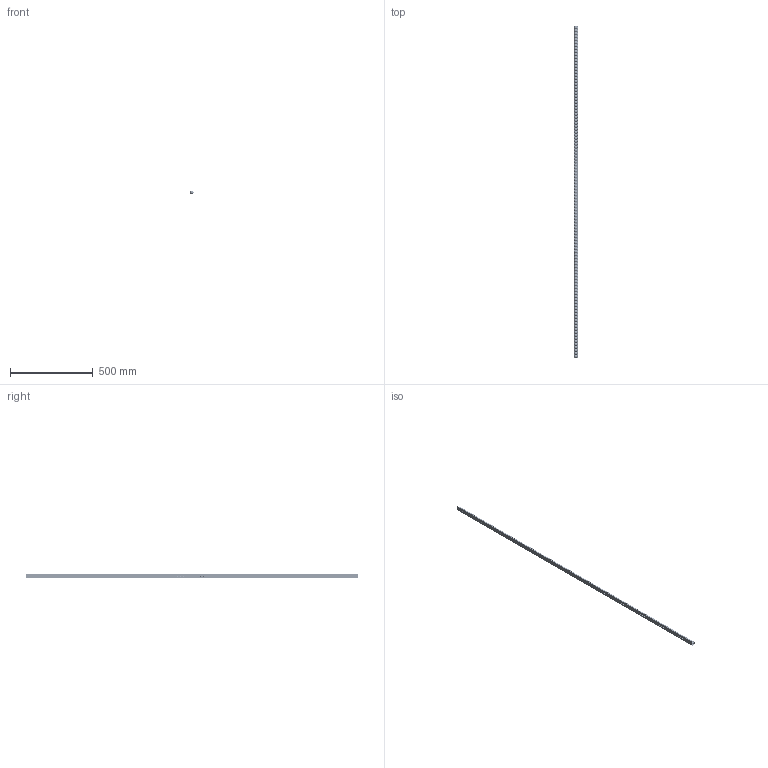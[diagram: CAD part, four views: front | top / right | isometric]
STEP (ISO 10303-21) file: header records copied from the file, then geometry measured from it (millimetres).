
FILE_DESCRIPTION(/* description */ ('Unknown'),/* implementation_level */ '2;1');
FILE_NAME(/* name */ '1609-01-00-Listwa T50AL 2000 [mm] ',/* time_stamp */ '2019-01-21T08:41:51+01:00',/* author */ ('Unknown'),/* organization */ ('Unknown'),/* preprocessor_version */ 'ST-DEVELOPER v16.7',/* originating_system */ 'DEX',/* authorisation */ $);
FILE_SCHEMA (('AUTOMOTIVE_DESIGN {1 0 10303 214 3 1 1}'));
Length unit declared in the file: millimetre
Products named in the file (4): 1609-01-00-Listwa T50AL 2000 [mm] ; 1609-01-01-Ceownik T50AL - 2000 [mm]; Rolka T 50A; Nit
Assembly tree (223 placements, depth 2):
  1609-01-00-Listwa T50AL 2000 [mm] 
    1609-01-01-Ceownik T50AL - 2000 [mm]
    Rolka T 50A  x111
    Nit  x111
Bounding box: 24.2 x 2000 x 30 mm (x, y, z)
Volume: 480926.3 mm3; surface area: 571151.6 mm2
Topology: 223 solids, 223 shells, 8019 faces, 21178 edges, 14049 vertices
Faces by surface type: plane 6226, cylinder 1238, torus 555
Full cylindrical faces by diameter (mm): 2 x111, 4 x111, 4.2 x235, 4.5 x111, 5.8 x111, 6 x111, 7.8 x222, 12.3 x222
Entity records: 12327 total; most frequent: DIRECTION 2300, CARTESIAN_POINT 1821, ORIENTED_EDGE 1338, AXIS2_PLACEMENT_3D 1088, EDGE_LOOP 1044, FACE_BOUND 1044, EDGE_CURVE 669, VERTEX_POINT 609
